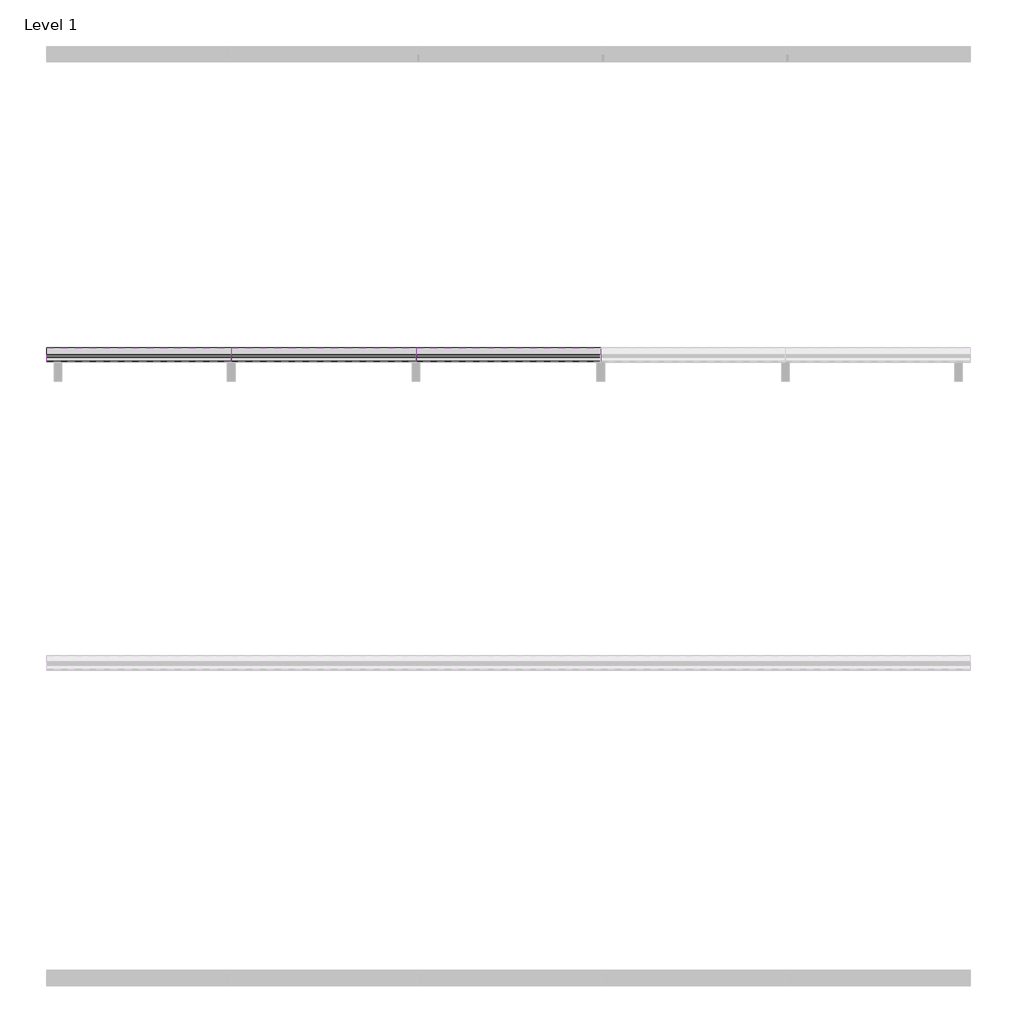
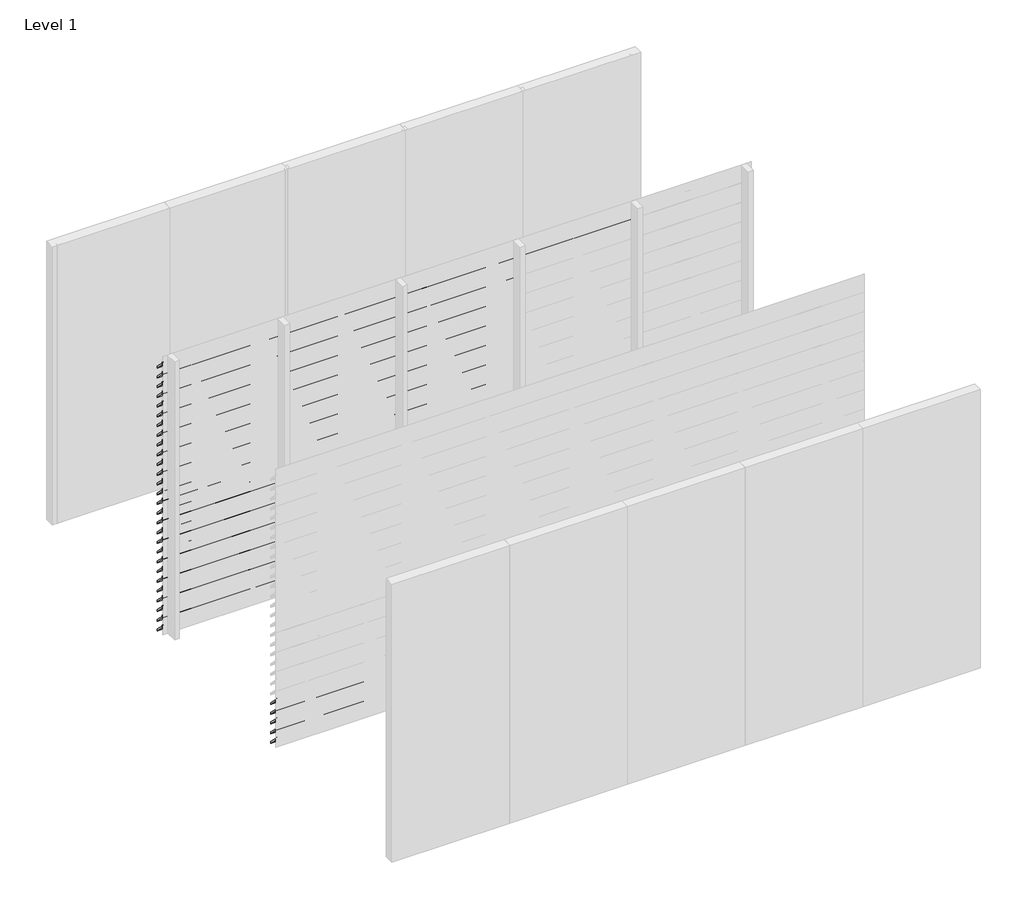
# One storey, part 2 of 8: 91 proxies.
"""IFC4 building model written with IfcOpenShell, lengths in millimetres."""

from ifc_helpers import new_model, si_unit, frame, origin, place, context, project, spatial, polyline, outline, extrude, element, save

model = new_model("IFC4")

# Units and contexts
model_context = context("Model", 3, world=origin())
ifc_project = project(units=[si_unit("LENGTHUNIT", "METRE", prefix="MILLI")], contexts=[model_context])

# Site, building, storey
site = spatial("IfcSite", under=ifc_project)
building = spatial("IfcBuilding", under=site)
storey = spatial("IfcBuildingStorey", under=building, Name="Level 1", Elevation=0.0)

# Proxies
placement = place(None, origin())
element("IfcBuildingElementProxy", 1, Name="Wall Sweeps", at=placement, inside=storey, context=model_context, shape_type="SweptSolid", body=[
    extrude(outline(polyline([(-17995.0, 2940.0), (-17995.0, 2927.0), (-17907.0, 2839.0), (-17907.0, 2818.0), (-17997.0, 2908.0), (-17997.0, 2940.0), (-17995.0, 2940.0)])), frame((3599.9999999, 0.0, 0.0), z_axis=(1.0, 0.0, 0.0), x_axis=(0.0, 1.0, 0.0)), (0.0, 0.0, 1.0), 1199.9999999),
])
element("IfcBuildingElementProxy", 2, Name="Wall Sweeps", at=placement, inside=storey, context=model_context, shape_type="SweptSolid", body=[
    extrude(outline(polyline([(-17995.0, 2835.0), (-17995.0, 2822.0), (-17907.0, 2734.0), (-17907.0, 2713.0), (-17997.0, 2803.0), (-17997.0, 2835.0), (-17995.0, 2835.0)])), frame((3599.9999999, 0.0, 0.0), z_axis=(1.0, 0.0, 0.0), x_axis=(0.0, 1.0, 0.0)), (0.0, 0.0, 1.0), 1199.9999999),
])
element("IfcBuildingElementProxy", 3, Name="Wall Sweeps", at=placement, inside=storey, context=model_context, shape_type="SweptSolid", body=[
    extrude(outline(polyline([(-17995.0, 2940.0), (-17995.0, 2927.0), (-17907.0, 2839.0), (-17907.0, 2818.0), (-17997.0, 2908.0), (-17997.0, 2940.0), (-17995.0, 2940.0)])), frame((2400.0000001, 0.0, 0.0), z_axis=(1.0, 0.0, 0.0), x_axis=(0.0, 1.0, 0.0)), (0.0, 0.0, 1.0), 1199.9999999),
])
element("IfcBuildingElementProxy", 4, Name="Wall Sweeps", at=placement, inside=storey, context=model_context, shape_type="SweptSolid", body=[
    extrude(outline(polyline([(-17995.0, 2835.0), (-17995.0, 2822.0), (-17907.0, 2734.0), (-17907.0, 2713.0), (-17997.0, 2803.0), (-17997.0, 2835.0), (-17995.0, 2835.0)])), frame((2400.0000001, 0.0, 0.0), z_axis=(1.0, 0.0, 0.0), x_axis=(0.0, 1.0, 0.0)), (0.0, 0.0, 1.0), 1199.9999999),
])
element("IfcBuildingElementProxy", 5, Name="Wall Sweeps", at=placement, inside=storey, context=model_context, shape_type="SweptSolid", body=[
    extrude(outline(polyline([(-17995.0, 2730.0), (-17995.0, 2717.0), (-17907.0, 2629.0), (-17907.0, 2608.0), (-17997.0, 2698.0), (-17997.0, 2730.0), (-17995.0, 2730.0)])), frame((2400.0000001, 0.0, 0.0), z_axis=(1.0, 0.0, 0.0), x_axis=(0.0, 1.0, 0.0)), (0.0, 0.0, 1.0), 1199.9999999),
])
element("IfcBuildingElementProxy", 6, Name="Wall Sweeps", at=placement, inside=storey, context=model_context, shape_type="SweptSolid", body=[
    extrude(outline(polyline([(-17995.0, 2625.0), (-17995.0, 2612.0), (-17907.0, 2524.0), (-17907.0, 2503.0), (-17997.0, 2593.0), (-17997.0, 2625.0), (-17995.0, 2625.0)])), frame((2400.0000001, 0.0, 0.0), z_axis=(1.0, 0.0, 0.0), x_axis=(0.0, 1.0, 0.0)), (0.0, 0.0, 1.0), 1199.9999999),
])
element("IfcBuildingElementProxy", 7, Name="Wall Sweeps", at=placement, inside=storey, context=model_context, shape_type="SweptSolid", body=[
    extrude(outline(polyline([(-17995.0, 2520.0), (-17995.0, 2507.0), (-17907.0, 2419.0), (-17907.0, 2398.0), (-17997.0, 2488.0), (-17997.0, 2520.0), (-17995.0, 2520.0)])), frame((2400.0000001, 0.0, 0.0), z_axis=(1.0, 0.0, 0.0), x_axis=(0.0, 1.0, 0.0)), (0.0, 0.0, 1.0), 1199.9999999),
])
element("IfcBuildingElementProxy", 8, Name="Wall Sweeps", at=placement, inside=storey, context=model_context, shape_type="SweptSolid", body=[
    extrude(outline(polyline([(-17995.0, 2415.0), (-17995.0, 2402.0), (-17907.0, 2314.0), (-17907.0, 2293.0), (-17997.0, 2383.0), (-17997.0, 2415.0), (-17995.0, 2415.0)])), frame((2400.0000001, 0.0, 0.0), z_axis=(1.0, 0.0, 0.0), x_axis=(0.0, 1.0, 0.0)), (0.0, 0.0, 1.0), 1199.9999999),
])
element("IfcBuildingElementProxy", 9, Name="Wall Sweeps", at=placement, inside=storey, context=model_context, shape_type="SweptSolid", body=[
    extrude(outline(polyline([(-17995.0, 2310.0), (-17995.0, 2297.0), (-17907.0, 2209.0), (-17907.0, 2188.0), (-17997.0, 2278.0), (-17997.0, 2310.0), (-17995.0, 2310.0)])), frame((2400.0000001, 0.0, 0.0), z_axis=(1.0, 0.0, 0.0), x_axis=(0.0, 1.0, 0.0)), (0.0, 0.0, 1.0), 1199.9999999),
])
element("IfcBuildingElementProxy", 10, Name="Wall Sweeps", at=placement, inside=storey, context=model_context, shape_type="SweptSolid", body=[
    extrude(outline(polyline([(-17995.0, 2205.0), (-17995.0, 2192.0), (-17907.0, 2104.0), (-17907.0, 2083.0), (-17997.0, 2173.0), (-17997.0, 2205.0), (-17995.0, 2205.0)])), frame((2400.0000001, 0.0, 0.0), z_axis=(1.0, 0.0, 0.0), x_axis=(0.0, 1.0, 0.0)), (0.0, 0.0, 1.0), 1199.9999999),
])
element("IfcBuildingElementProxy", 11, Name="Wall Sweeps", at=placement, inside=storey, context=model_context, shape_type="SweptSolid", body=[
    extrude(outline(polyline([(-17995.0, 2100.0), (-17995.0, 2087.0), (-17907.0, 1999.0), (-17907.0, 1978.0), (-17997.0, 2068.0), (-17997.0, 2100.0), (-17995.0, 2100.0)])), frame((2400.0000001, 0.0, 0.0), z_axis=(1.0, 0.0, 0.0), x_axis=(0.0, 1.0, 0.0)), (0.0, 0.0, 1.0), 1199.9999999),
])
element("IfcBuildingElementProxy", 12, Name="Wall Sweeps", at=placement, inside=storey, context=model_context, shape_type="SweptSolid", body=[
    extrude(outline(polyline([(-17995.0, 1995.0), (-17995.0, 1982.0), (-17907.0, 1894.0), (-17907.0, 1873.0), (-17997.0, 1963.0), (-17997.0, 1995.0), (-17995.0, 1995.0)])), frame((2400.0000001, 0.0, 0.0), z_axis=(1.0, 0.0, 0.0), x_axis=(0.0, 1.0, 0.0)), (0.0, 0.0, 1.0), 1199.9999999),
])
element("IfcBuildingElementProxy", 13, Name="Wall Sweeps", at=placement, inside=storey, context=model_context, shape_type="SweptSolid", body=[
    extrude(outline(polyline([(-17995.0, 1890.0), (-17995.0, 1877.0), (-17907.0, 1789.0), (-17907.0, 1768.0), (-17997.0, 1858.0), (-17997.0, 1890.0), (-17995.0, 1890.0)])), frame((2400.0000001, 0.0, 0.0), z_axis=(1.0, 0.0, 0.0), x_axis=(0.0, 1.0, 0.0)), (0.0, 0.0, 1.0), 1199.9999999),
])
element("IfcBuildingElementProxy", 14, Name="Wall Sweeps", at=placement, inside=storey, context=model_context, shape_type="SweptSolid", body=[
    extrude(outline(polyline([(-17995.0, 1785.0), (-17995.0, 1772.0), (-17907.0, 1684.0), (-17907.0, 1663.0), (-17997.0, 1753.0), (-17997.0, 1785.0), (-17995.0, 1785.0)])), frame((2400.0000001, 0.0, 0.0), z_axis=(1.0, 0.0, 0.0), x_axis=(0.0, 1.0, 0.0)), (0.0, 0.0, 1.0), 1199.9999999),
])
element("IfcBuildingElementProxy", 15, Name="Wall Sweeps", at=placement, inside=storey, context=model_context, shape_type="SweptSolid", body=[
    extrude(outline(polyline([(-17995.0, 1680.0), (-17995.0, 1667.0), (-17907.0, 1579.0), (-17907.0, 1558.0), (-17997.0, 1648.0), (-17997.0, 1680.0), (-17995.0, 1680.0)])), frame((2400.0000001, 0.0, 0.0), z_axis=(1.0, 0.0, 0.0), x_axis=(0.0, 1.0, 0.0)), (0.0, 0.0, 1.0), 1199.9999999),
])
element("IfcBuildingElementProxy", 16, Name="Wall Sweeps", at=placement, inside=storey, context=model_context, shape_type="SweptSolid", body=[
    extrude(outline(polyline([(-17995.0, 1575.0), (-17995.0, 1562.0), (-17907.0, 1474.0), (-17907.0, 1453.0), (-17997.0, 1543.0), (-17997.0, 1575.0), (-17995.0, 1575.0)])), frame((2400.0000001, 0.0, 0.0), z_axis=(1.0, 0.0, 0.0), x_axis=(0.0, 1.0, 0.0)), (0.0, 0.0, 1.0), 1199.9999999),
])
element("IfcBuildingElementProxy", 17, Name="Wall Sweeps", at=placement, inside=storey, context=model_context, shape_type="SweptSolid", body=[
    extrude(outline(polyline([(-17995.0, 1470.0), (-17995.0, 1457.0), (-17907.0, 1369.0), (-17907.0, 1348.0), (-17997.0, 1438.0), (-17997.0, 1470.0), (-17995.0, 1470.0)])), frame((2400.0000001, 0.0, 0.0), z_axis=(1.0, 0.0, 0.0), x_axis=(0.0, 1.0, 0.0)), (0.0, 0.0, 1.0), 1199.9999999),
])
element("IfcBuildingElementProxy", 18, Name="Wall Sweeps", at=placement, inside=storey, context=model_context, shape_type="SweptSolid", body=[
    extrude(outline(polyline([(-17995.0, 1365.0), (-17995.0, 1352.0), (-17907.0, 1264.0), (-17907.0, 1243.0), (-17997.0, 1333.0), (-17997.0, 1365.0), (-17995.0, 1365.0)])), frame((2400.0000001, 0.0, 0.0), z_axis=(1.0, 0.0, 0.0), x_axis=(0.0, 1.0, 0.0)), (0.0, 0.0, 1.0), 1199.9999999),
])
element("IfcBuildingElementProxy", 19, Name="Wall Sweeps", at=placement, inside=storey, context=model_context, shape_type="SweptSolid", body=[
    extrude(outline(polyline([(-17995.0, 1260.0), (-17995.0, 1247.0), (-17907.0, 1159.0), (-17907.0, 1138.0), (-17997.0, 1228.0), (-17997.0, 1260.0), (-17995.0, 1260.0)])), frame((2400.0000001, 0.0, 0.0), z_axis=(1.0, 0.0, 0.0), x_axis=(0.0, 1.0, 0.0)), (0.0, 0.0, 1.0), 1199.9999999),
])
element("IfcBuildingElementProxy", 20, Name="Wall Sweeps", at=placement, inside=storey, context=model_context, shape_type="SweptSolid", body=[
    extrude(outline(polyline([(-17995.0, 1155.0), (-17995.0, 1142.0), (-17907.0, 1054.0), (-17907.0, 1033.0), (-17997.0, 1123.0), (-17997.0, 1155.0), (-17995.0, 1155.0)])), frame((2400.0000001, 0.0, 0.0), z_axis=(1.0, 0.0, 0.0), x_axis=(0.0, 1.0, 0.0)), (0.0, 0.0, 1.0), 1199.9999999),
])
element("IfcBuildingElementProxy", 21, Name="Wall Sweeps", at=placement, inside=storey, context=model_context, shape_type="SweptSolid", body=[
    extrude(outline(polyline([(-17995.0, 1050.0), (-17995.0, 1037.0), (-17907.0, 949.0), (-17907.0, 928.0), (-17997.0, 1018.0), (-17997.0, 1050.0), (-17995.0, 1050.0)])), frame((2400.0000001, 0.0, 0.0), z_axis=(1.0, 0.0, 0.0), x_axis=(0.0, 1.0, 0.0)), (0.0, 0.0, 1.0), 1199.9999999),
])
element("IfcBuildingElementProxy", 22, Name="Wall Sweeps", at=placement, inside=storey, context=model_context, shape_type="SweptSolid", body=[
    extrude(outline(polyline([(-17995.0, 945.0), (-17995.0, 932.0), (-17907.0, 844.0), (-17907.0, 823.0), (-17997.0, 913.0), (-17997.0, 945.0), (-17995.0, 945.0)])), frame((2400.0000001, 0.0, 0.0), z_axis=(1.0, 0.0, 0.0), x_axis=(0.0, 1.0, 0.0)), (0.0, 0.0, 1.0), 1199.9999999),
])
element("IfcBuildingElementProxy", 23, Name="Wall Sweeps", at=placement, inside=storey, context=model_context, shape_type="SweptSolid", body=[
    extrude(outline(polyline([(-17995.0, 840.0), (-17995.0, 827.0), (-17907.0, 739.0), (-17907.0, 718.0), (-17997.0, 808.0), (-17997.0, 840.0), (-17995.0, 840.0)])), frame((2400.0000001, 0.0, 0.0), z_axis=(1.0, 0.0, 0.0), x_axis=(0.0, 1.0, 0.0)), (0.0, 0.0, 1.0), 1199.9999999),
])
element("IfcBuildingElementProxy", 24, Name="Wall Sweeps", at=placement, inside=storey, context=model_context, shape_type="SweptSolid", body=[
    extrude(outline(polyline([(-17995.0, 735.0), (-17995.0, 722.0), (-17907.0, 634.0), (-17907.0, 613.0), (-17997.0, 703.0), (-17997.0, 735.0), (-17995.0, 735.0)])), frame((2400.0000001, 0.0, 0.0), z_axis=(1.0, 0.0, 0.0), x_axis=(0.0, 1.0, 0.0)), (0.0, 0.0, 1.0), 1199.9999999),
])
element("IfcBuildingElementProxy", 25, Name="Wall Sweeps", at=placement, inside=storey, context=model_context, shape_type="SweptSolid", body=[
    extrude(outline(polyline([(-17995.0, 630.0), (-17995.0, 617.0), (-17907.0, 529.0), (-17907.0, 508.0), (-17997.0, 598.0), (-17997.0, 630.0), (-17995.0, 630.0)])), frame((2400.0000001, 0.0, 0.0), z_axis=(1.0, 0.0, 0.0), x_axis=(0.0, 1.0, 0.0)), (0.0, 0.0, 1.0), 1199.9999999),
])
element("IfcBuildingElementProxy", 26, Name="Wall Sweeps", at=placement, inside=storey, context=model_context, shape_type="SweptSolid", body=[
    extrude(outline(polyline([(-17995.0, 525.0), (-17995.0, 512.0), (-17907.0, 424.0), (-17907.0, 403.0), (-17997.0, 493.0), (-17997.0, 525.0), (-17995.0, 525.0)])), frame((2400.0000001, 0.0, 0.0), z_axis=(1.0, 0.0, 0.0), x_axis=(0.0, 1.0, 0.0)), (0.0, 0.0, 1.0), 1199.9999999),
])
element("IfcBuildingElementProxy", 27, Name="Wall Sweeps", at=placement, inside=storey, context=model_context, shape_type="SweptSolid", body=[
    extrude(outline(polyline([(-17995.0, 420.0), (-17995.0, 407.0), (-17907.0, 319.0), (-17907.0, 298.0), (-17997.0, 388.0), (-17997.0, 420.0), (-17995.0, 420.0)])), frame((2400.0000001, 0.0, 0.0), z_axis=(1.0, 0.0, 0.0), x_axis=(0.0, 1.0, 0.0)), (0.0, 0.0, 1.0), 1199.9999999),
])
element("IfcBuildingElementProxy", 28, Name="Wall Sweeps", at=placement, inside=storey, context=model_context, shape_type="SweptSolid", body=[
    extrude(outline(polyline([(-17995.0, 315.0), (-17995.0, 302.0), (-17907.0, 214.0), (-17907.0, 193.0), (-17997.0, 283.0), (-17997.0, 315.0), (-17995.0, 315.0)])), frame((2400.0000001, 0.0, 0.0), z_axis=(1.0, 0.0, 0.0), x_axis=(0.0, 1.0, 0.0)), (0.0, 0.0, 1.0), 1199.9999999),
])
element("IfcBuildingElementProxy", 29, Name="Wall Sweeps", at=placement, inside=storey, context=model_context, shape_type="SweptSolid", body=[
    extrude(outline(polyline([(-17995.0, 210.0), (-17995.0, 197.0), (-17907.0, 109.0), (-17907.0, 88.0), (-17997.0, 178.0), (-17997.0, 210.0), (-17995.0, 210.0)])), frame((2400.0000001, 0.0, 0.0), z_axis=(1.0, 0.0, 0.0), x_axis=(0.0, 1.0, 0.0)), (0.0, 0.0, 1.0), 1199.9999999),
])
element("IfcBuildingElementProxy", 30, Name="Wall Sweeps", at=placement, inside=storey, context=model_context, shape_type="SweptSolid", body=[
    extrude(outline(polyline([(-17995.0, 105.0), (-17995.0, 92.0), (-17907.0, 4.0), (-17907.0, -17.0), (-17997.0, 73.0), (-17997.0, 105.0), (-17995.0, 105.0)])), frame((2400.0000001, 0.0, 0.0), z_axis=(1.0, 0.0, 0.0), x_axis=(0.0, 1.0, 0.0)), (0.0, 0.0, 1.0), 1199.9999999),
])
element("IfcBuildingElementProxy", 31, Name="Wall Sweeps", at=placement, inside=storey, context=model_context, shape_type="SweptSolid", body=[
    extrude(outline(polyline([(-17995.0, 2940.0), (-17995.0, 2927.0), (-17907.0, 2839.0), (-17907.0, 2818.0), (-17997.0, 2908.0), (-17997.0, 2940.0), (-17995.0, 2940.0)])), frame((1200.0000002, 0.0, 0.0), z_axis=(1.0, 0.0, 0.0), x_axis=(0.0, 1.0, 0.0)), (0.0, 0.0, 1.0), 1199.9999999),
])
element("IfcBuildingElementProxy", 32, Name="Wall Sweeps", at=placement, inside=storey, context=model_context, shape_type="SweptSolid", body=[
    extrude(outline(polyline([(-17995.0, 2835.0), (-17995.0, 2822.0), (-17907.0, 2734.0), (-17907.0, 2713.0), (-17997.0, 2803.0), (-17997.0, 2835.0), (-17995.0, 2835.0)])), frame((1200.0000002, 0.0, 0.0), z_axis=(1.0, 0.0, 0.0), x_axis=(0.0, 1.0, 0.0)), (0.0, 0.0, 1.0), 1199.9999999),
])
element("IfcBuildingElementProxy", 33, Name="Wall Sweeps", at=placement, inside=storey, context=model_context, shape_type="SweptSolid", body=[
    extrude(outline(polyline([(-17995.0, 2730.0), (-17995.0, 2717.0), (-17907.0, 2629.0), (-17907.0, 2608.0), (-17997.0, 2698.0), (-17997.0, 2730.0), (-17995.0, 2730.0)])), frame((1200.0000002, 0.0, 0.0), z_axis=(1.0, 0.0, 0.0), x_axis=(0.0, 1.0, 0.0)), (0.0, 0.0, 1.0), 1199.9999999),
])
element("IfcBuildingElementProxy", 34, Name="Wall Sweeps", at=placement, inside=storey, context=model_context, shape_type="SweptSolid", body=[
    extrude(outline(polyline([(-17995.0, 2625.0), (-17995.0, 2612.0), (-17907.0, 2524.0), (-17907.0, 2503.0), (-17997.0, 2593.0), (-17997.0, 2625.0), (-17995.0, 2625.0)])), frame((1200.0000002, 0.0, 0.0), z_axis=(1.0, 0.0, 0.0), x_axis=(0.0, 1.0, 0.0)), (0.0, 0.0, 1.0), 1199.9999999),
])
element("IfcBuildingElementProxy", 35, Name="Wall Sweeps", at=placement, inside=storey, context=model_context, shape_type="SweptSolid", body=[
    extrude(outline(polyline([(-17995.0, 2520.0), (-17995.0, 2507.0), (-17907.0, 2419.0), (-17907.0, 2398.0), (-17997.0, 2488.0), (-17997.0, 2520.0), (-17995.0, 2520.0)])), frame((1200.0000002, 0.0, 0.0), z_axis=(1.0, 0.0, 0.0), x_axis=(0.0, 1.0, 0.0)), (0.0, 0.0, 1.0), 1199.9999999),
])
element("IfcBuildingElementProxy", 36, Name="Wall Sweeps", at=placement, inside=storey, context=model_context, shape_type="SweptSolid", body=[
    extrude(outline(polyline([(-17995.0, 2415.0), (-17995.0, 2402.0), (-17907.0, 2314.0), (-17907.0, 2293.0), (-17997.0, 2383.0), (-17997.0, 2415.0), (-17995.0, 2415.0)])), frame((1200.0000002, 0.0, 0.0), z_axis=(1.0, 0.0, 0.0), x_axis=(0.0, 1.0, 0.0)), (0.0, 0.0, 1.0), 1199.9999999),
])
element("IfcBuildingElementProxy", 37, Name="Wall Sweeps", at=placement, inside=storey, context=model_context, shape_type="SweptSolid", body=[
    extrude(outline(polyline([(-17995.0, 2310.0), (-17995.0, 2297.0), (-17907.0, 2209.0), (-17907.0, 2188.0), (-17997.0, 2278.0), (-17997.0, 2310.0), (-17995.0, 2310.0)])), frame((1200.0000002, 0.0, 0.0), z_axis=(1.0, 0.0, 0.0), x_axis=(0.0, 1.0, 0.0)), (0.0, 0.0, 1.0), 1199.9999999),
])
element("IfcBuildingElementProxy", 38, Name="Wall Sweeps", at=placement, inside=storey, context=model_context, shape_type="SweptSolid", body=[
    extrude(outline(polyline([(-17995.0, 2205.0), (-17995.0, 2192.0), (-17907.0, 2104.0), (-17907.0, 2083.0), (-17997.0, 2173.0), (-17997.0, 2205.0), (-17995.0, 2205.0)])), frame((1200.0000002, 0.0, 0.0), z_axis=(1.0, 0.0, 0.0), x_axis=(0.0, 1.0, 0.0)), (0.0, 0.0, 1.0), 1199.9999999),
])
element("IfcBuildingElementProxy", 39, Name="Wall Sweeps", at=placement, inside=storey, context=model_context, shape_type="SweptSolid", body=[
    extrude(outline(polyline([(-17995.0, 2100.0), (-17995.0, 2087.0), (-17907.0, 1999.0), (-17907.0, 1978.0), (-17997.0, 2068.0), (-17997.0, 2100.0), (-17995.0, 2100.0)])), frame((1200.0000002, 0.0, 0.0), z_axis=(1.0, 0.0, 0.0), x_axis=(0.0, 1.0, 0.0)), (0.0, 0.0, 1.0), 1199.9999999),
])
element("IfcBuildingElementProxy", 40, Name="Wall Sweeps", at=placement, inside=storey, context=model_context, shape_type="SweptSolid", body=[
    extrude(outline(polyline([(-17995.0, 1995.0), (-17995.0, 1982.0), (-17907.0, 1894.0), (-17907.0, 1873.0), (-17997.0, 1963.0), (-17997.0, 1995.0), (-17995.0, 1995.0)])), frame((1200.0000002, 0.0, 0.0), z_axis=(1.0, 0.0, 0.0), x_axis=(0.0, 1.0, 0.0)), (0.0, 0.0, 1.0), 1199.9999999),
])
element("IfcBuildingElementProxy", 41, Name="Wall Sweeps", at=placement, inside=storey, context=model_context, shape_type="SweptSolid", body=[
    extrude(outline(polyline([(-17995.0, 1890.0), (-17995.0, 1877.0), (-17907.0, 1789.0), (-17907.0, 1768.0), (-17997.0, 1858.0), (-17997.0, 1890.0), (-17995.0, 1890.0)])), frame((1200.0000002, 0.0, 0.0), z_axis=(1.0, 0.0, 0.0), x_axis=(0.0, 1.0, 0.0)), (0.0, 0.0, 1.0), 1199.9999999),
])
element("IfcBuildingElementProxy", 42, Name="Wall Sweeps", at=placement, inside=storey, context=model_context, shape_type="SweptSolid", body=[
    extrude(outline(polyline([(-17995.0, 1785.0), (-17995.0, 1772.0), (-17907.0, 1684.0), (-17907.0, 1663.0), (-17997.0, 1753.0), (-17997.0, 1785.0), (-17995.0, 1785.0)])), frame((1200.0000002, 0.0, 0.0), z_axis=(1.0, 0.0, 0.0), x_axis=(0.0, 1.0, 0.0)), (0.0, 0.0, 1.0), 1199.9999999),
])
element("IfcBuildingElementProxy", 43, Name="Wall Sweeps", at=placement, inside=storey, context=model_context, shape_type="SweptSolid", body=[
    extrude(outline(polyline([(-17995.0, 1680.0), (-17995.0, 1667.0), (-17907.0, 1579.0), (-17907.0, 1558.0), (-17997.0, 1648.0), (-17997.0, 1680.0), (-17995.0, 1680.0)])), frame((1200.0000002, 0.0, 0.0), z_axis=(1.0, 0.0, 0.0), x_axis=(0.0, 1.0, 0.0)), (0.0, 0.0, 1.0), 1199.9999999),
])
element("IfcBuildingElementProxy", 44, Name="Wall Sweeps", at=placement, inside=storey, context=model_context, shape_type="SweptSolid", body=[
    extrude(outline(polyline([(-17995.0, 1575.0), (-17995.0, 1562.0), (-17907.0, 1474.0), (-17907.0, 1453.0), (-17997.0, 1543.0), (-17997.0, 1575.0), (-17995.0, 1575.0)])), frame((1200.0000002, 0.0, 0.0), z_axis=(1.0, 0.0, 0.0), x_axis=(0.0, 1.0, 0.0)), (0.0, 0.0, 1.0), 1199.9999999),
])
element("IfcBuildingElementProxy", 45, Name="Wall Sweeps", at=placement, inside=storey, context=model_context, shape_type="SweptSolid", body=[
    extrude(outline(polyline([(-17995.0, 1470.0), (-17995.0, 1457.0), (-17907.0, 1369.0), (-17907.0, 1348.0), (-17997.0, 1438.0), (-17997.0, 1470.0), (-17995.0, 1470.0)])), frame((1200.0000002, 0.0, 0.0), z_axis=(1.0, 0.0, 0.0), x_axis=(0.0, 1.0, 0.0)), (0.0, 0.0, 1.0), 1199.9999999),
])
element("IfcBuildingElementProxy", 46, Name="Wall Sweeps", at=placement, inside=storey, context=model_context, shape_type="SweptSolid", body=[
    extrude(outline(polyline([(-17995.0, 1365.0), (-17995.0, 1352.0), (-17907.0, 1264.0), (-17907.0, 1243.0), (-17997.0, 1333.0), (-17997.0, 1365.0), (-17995.0, 1365.0)])), frame((1200.0000002, 0.0, 0.0), z_axis=(1.0, 0.0, 0.0), x_axis=(0.0, 1.0, 0.0)), (0.0, 0.0, 1.0), 1199.9999999),
])
element("IfcBuildingElementProxy", 47, Name="Wall Sweeps", at=placement, inside=storey, context=model_context, shape_type="SweptSolid", body=[
    extrude(outline(polyline([(-17995.0, 1260.0), (-17995.0, 1247.0), (-17907.0, 1159.0), (-17907.0, 1138.0), (-17997.0, 1228.0), (-17997.0, 1260.0), (-17995.0, 1260.0)])), frame((1200.0000002, 0.0, 0.0), z_axis=(1.0, 0.0, 0.0), x_axis=(0.0, 1.0, 0.0)), (0.0, 0.0, 1.0), 1199.9999999),
])
element("IfcBuildingElementProxy", 48, Name="Wall Sweeps", at=placement, inside=storey, context=model_context, shape_type="SweptSolid", body=[
    extrude(outline(polyline([(-17995.0, 1155.0), (-17995.0, 1142.0), (-17907.0, 1054.0), (-17907.0, 1033.0), (-17997.0, 1123.0), (-17997.0, 1155.0), (-17995.0, 1155.0)])), frame((1200.0000002, 0.0, 0.0), z_axis=(1.0, 0.0, 0.0), x_axis=(0.0, 1.0, 0.0)), (0.0, 0.0, 1.0), 1199.9999999),
])
element("IfcBuildingElementProxy", 49, Name="Wall Sweeps", at=placement, inside=storey, context=model_context, shape_type="SweptSolid", body=[
    extrude(outline(polyline([(-17995.0, 1050.0), (-17995.0, 1037.0), (-17907.0, 949.0), (-17907.0, 928.0), (-17997.0, 1018.0), (-17997.0, 1050.0), (-17995.0, 1050.0)])), frame((1200.0000002, 0.0, 0.0), z_axis=(1.0, 0.0, 0.0), x_axis=(0.0, 1.0, 0.0)), (0.0, 0.0, 1.0), 1199.9999999),
])
element("IfcBuildingElementProxy", 50, Name="Wall Sweeps", at=placement, inside=storey, context=model_context, shape_type="SweptSolid", body=[
    extrude(outline(polyline([(-17995.0, 945.0), (-17995.0, 932.0), (-17907.0, 844.0), (-17907.0, 823.0), (-17997.0, 913.0), (-17997.0, 945.0), (-17995.0, 945.0)])), frame((1200.0000002, 0.0, 0.0), z_axis=(1.0, 0.0, 0.0), x_axis=(0.0, 1.0, 0.0)), (0.0, 0.0, 1.0), 1199.9999999),
])
element("IfcBuildingElementProxy", 51, Name="Wall Sweeps", at=placement, inside=storey, context=model_context, shape_type="SweptSolid", body=[
    extrude(outline(polyline([(-17995.0, 840.0), (-17995.0, 827.0), (-17907.0, 739.0), (-17907.0, 718.0), (-17997.0, 808.0), (-17997.0, 840.0), (-17995.0, 840.0)])), frame((1200.0000002, 0.0, 0.0), z_axis=(1.0, 0.0, 0.0), x_axis=(0.0, 1.0, 0.0)), (0.0, 0.0, 1.0), 1199.9999999),
])
element("IfcBuildingElementProxy", 52, Name="Wall Sweeps", at=placement, inside=storey, context=model_context, shape_type="SweptSolid", body=[
    extrude(outline(polyline([(-17995.0, 735.0), (-17995.0, 722.0), (-17907.0, 634.0), (-17907.0, 613.0), (-17997.0, 703.0), (-17997.0, 735.0), (-17995.0, 735.0)])), frame((1200.0000002, 0.0, 0.0), z_axis=(1.0, 0.0, 0.0), x_axis=(0.0, 1.0, 0.0)), (0.0, 0.0, 1.0), 1199.9999999),
])
element("IfcBuildingElementProxy", 53, Name="Wall Sweeps", at=placement, inside=storey, context=model_context, shape_type="SweptSolid", body=[
    extrude(outline(polyline([(-17995.0, 630.0), (-17995.0, 617.0), (-17907.0, 529.0), (-17907.0, 508.0), (-17997.0, 598.0), (-17997.0, 630.0), (-17995.0, 630.0)])), frame((1200.0000002, 0.0, 0.0), z_axis=(1.0, 0.0, 0.0), x_axis=(0.0, 1.0, 0.0)), (0.0, 0.0, 1.0), 1199.9999999),
])
element("IfcBuildingElementProxy", 54, Name="Wall Sweeps", at=placement, inside=storey, context=model_context, shape_type="SweptSolid", body=[
    extrude(outline(polyline([(-17995.0, 525.0), (-17995.0, 512.0), (-17907.0, 424.0), (-17907.0, 403.0), (-17997.0, 493.0), (-17997.0, 525.0), (-17995.0, 525.0)])), frame((1200.0000002, 0.0, 0.0), z_axis=(1.0, 0.0, 0.0), x_axis=(0.0, 1.0, 0.0)), (0.0, 0.0, 1.0), 1199.9999999),
])
element("IfcBuildingElementProxy", 55, Name="Wall Sweeps", at=placement, inside=storey, context=model_context, shape_type="SweptSolid", body=[
    extrude(outline(polyline([(-17995.0, 420.0), (-17995.0, 407.0), (-17907.0, 319.0), (-17907.0, 298.0), (-17997.0, 388.0), (-17997.0, 420.0), (-17995.0, 420.0)])), frame((1200.0000002, 0.0, 0.0), z_axis=(1.0, 0.0, 0.0), x_axis=(0.0, 1.0, 0.0)), (0.0, 0.0, 1.0), 1199.9999999),
])
element("IfcBuildingElementProxy", 56, Name="Wall Sweeps", at=placement, inside=storey, context=model_context, shape_type="SweptSolid", body=[
    extrude(outline(polyline([(-17995.0, 315.0), (-17995.0, 302.0), (-17907.0, 214.0), (-17907.0, 193.0), (-17997.0, 283.0), (-17997.0, 315.0), (-17995.0, 315.0)])), frame((1200.0000002, 0.0, 0.0), z_axis=(1.0, 0.0, 0.0), x_axis=(0.0, 1.0, 0.0)), (0.0, 0.0, 1.0), 1199.9999999),
])
element("IfcBuildingElementProxy", 57, Name="Wall Sweeps", at=placement, inside=storey, context=model_context, shape_type="SweptSolid", body=[
    extrude(outline(polyline([(-17995.0, 210.0), (-17995.0, 197.0), (-17907.0, 109.0), (-17907.0, 88.0), (-17997.0, 178.0), (-17997.0, 210.0), (-17995.0, 210.0)])), frame((1200.0000002, 0.0, 0.0), z_axis=(1.0, 0.0, 0.0), x_axis=(0.0, 1.0, 0.0)), (0.0, 0.0, 1.0), 1199.9999999),
])
element("IfcBuildingElementProxy", 58, Name="Wall Sweeps", at=placement, inside=storey, context=model_context, shape_type="SweptSolid", body=[
    extrude(outline(polyline([(-17995.0, 105.0), (-17995.0, 92.0), (-17907.0, 4.0), (-17907.0, -17.0), (-17997.0, 73.0), (-17997.0, 105.0), (-17995.0, 105.0)])), frame((1200.0000002, 0.0, 0.0), z_axis=(1.0, 0.0, 0.0), x_axis=(0.0, 1.0, 0.0)), (0.0, 0.0, 1.0), 1199.9999999),
])
element("IfcBuildingElementProxy", 59, Name="Wall Sweeps", at=placement, inside=storey, context=model_context, shape_type="SweptSolid", body=[
    extrude(outline(polyline([(-17995.0, 2940.0), (-17995.0, 2927.0), (-17907.0, 2839.0), (-17907.0, 2818.0), (-17997.0, 2908.0), (-17997.0, 2940.0), (-17995.0, 2940.0)])), frame((0.0, 0.0, 0.0), z_axis=(1.0, 0.0, 0.0), x_axis=(0.0, 1.0, 0.0)), (0.0, 0.0, 1.0), 1200.0000002),
])
element("IfcBuildingElementProxy", 60, Name="Wall Sweeps", at=placement, inside=storey, context=model_context, shape_type="SweptSolid", body=[
    extrude(outline(polyline([(-17995.0, 2835.0), (-17995.0, 2822.0), (-17907.0, 2734.0), (-17907.0, 2713.0), (-17997.0, 2803.0), (-17997.0, 2835.0), (-17995.0, 2835.0)])), frame((0.0, 0.0, 0.0), z_axis=(1.0, 0.0, 0.0), x_axis=(0.0, 1.0, 0.0)), (0.0, 0.0, 1.0), 1200.0000002),
])
element("IfcBuildingElementProxy", 61, Name="Wall Sweeps", at=placement, inside=storey, context=model_context, shape_type="SweptSolid", body=[
    extrude(outline(polyline([(-17995.0, 2730.0), (-17995.0, 2717.0), (-17907.0, 2629.0), (-17907.0, 2608.0), (-17997.0, 2698.0), (-17997.0, 2730.0), (-17995.0, 2730.0)])), frame((0.0, 0.0, 0.0), z_axis=(1.0, 0.0, 0.0), x_axis=(0.0, 1.0, 0.0)), (0.0, 0.0, 1.0), 1200.0000002),
])
element("IfcBuildingElementProxy", 62, Name="Wall Sweeps", at=placement, inside=storey, context=model_context, shape_type="SweptSolid", body=[
    extrude(outline(polyline([(-17995.0, 2625.0), (-17995.0, 2612.0), (-17907.0, 2524.0), (-17907.0, 2503.0), (-17997.0, 2593.0), (-17997.0, 2625.0), (-17995.0, 2625.0)])), frame((0.0, 0.0, 0.0), z_axis=(1.0, 0.0, 0.0), x_axis=(0.0, 1.0, 0.0)), (0.0, 0.0, 1.0), 1200.0000002),
])
element("IfcBuildingElementProxy", 63, Name="Wall Sweeps", at=placement, inside=storey, context=model_context, shape_type="SweptSolid", body=[
    extrude(outline(polyline([(-17995.0, 2520.0), (-17995.0, 2507.0), (-17907.0, 2419.0), (-17907.0, 2398.0), (-17997.0, 2488.0), (-17997.0, 2520.0), (-17995.0, 2520.0)])), frame((0.0, 0.0, 0.0), z_axis=(1.0, 0.0, 0.0), x_axis=(0.0, 1.0, 0.0)), (0.0, 0.0, 1.0), 1200.0000002),
])
element("IfcBuildingElementProxy", 64, Name="Wall Sweeps", at=placement, inside=storey, context=model_context, shape_type="SweptSolid", body=[
    extrude(outline(polyline([(-17995.0, 2415.0), (-17995.0, 2402.0), (-17907.0, 2314.0), (-17907.0, 2293.0), (-17997.0, 2383.0), (-17997.0, 2415.0), (-17995.0, 2415.0)])), frame((0.0, 0.0, 0.0), z_axis=(1.0, 0.0, 0.0), x_axis=(0.0, 1.0, 0.0)), (0.0, 0.0, 1.0), 1200.0000002),
])
element("IfcBuildingElementProxy", 65, Name="Wall Sweeps", at=placement, inside=storey, context=model_context, shape_type="SweptSolid", body=[
    extrude(outline(polyline([(-17995.0, 2310.0), (-17995.0, 2297.0), (-17907.0, 2209.0), (-17907.0, 2188.0), (-17997.0, 2278.0), (-17997.0, 2310.0), (-17995.0, 2310.0)])), frame((0.0, 0.0, 0.0), z_axis=(1.0, 0.0, 0.0), x_axis=(0.0, 1.0, 0.0)), (0.0, 0.0, 1.0), 1200.0000002),
])
element("IfcBuildingElementProxy", 66, Name="Wall Sweeps", at=placement, inside=storey, context=model_context, shape_type="SweptSolid", body=[
    extrude(outline(polyline([(-17995.0, 2205.0), (-17995.0, 2192.0), (-17907.0, 2104.0), (-17907.0, 2083.0), (-17997.0, 2173.0), (-17997.0, 2205.0), (-17995.0, 2205.0)])), frame((0.0, 0.0, 0.0), z_axis=(1.0, 0.0, 0.0), x_axis=(0.0, 1.0, 0.0)), (0.0, 0.0, 1.0), 1200.0000002),
])
element("IfcBuildingElementProxy", 67, Name="Wall Sweeps", at=placement, inside=storey, context=model_context, shape_type="SweptSolid", body=[
    extrude(outline(polyline([(-17995.0, 2100.0), (-17995.0, 2087.0), (-17907.0, 1999.0), (-17907.0, 1978.0), (-17997.0, 2068.0), (-17997.0, 2100.0), (-17995.0, 2100.0)])), frame((0.0, 0.0, 0.0), z_axis=(1.0, 0.0, 0.0), x_axis=(0.0, 1.0, 0.0)), (0.0, 0.0, 1.0), 1200.0000002),
])
element("IfcBuildingElementProxy", 68, Name="Wall Sweeps", at=placement, inside=storey, context=model_context, shape_type="SweptSolid", body=[
    extrude(outline(polyline([(-17995.0, 1995.0), (-17995.0, 1982.0), (-17907.0, 1894.0), (-17907.0, 1873.0), (-17997.0, 1963.0), (-17997.0, 1995.0), (-17995.0, 1995.0)])), frame((0.0, 0.0, 0.0), z_axis=(1.0, 0.0, 0.0), x_axis=(0.0, 1.0, 0.0)), (0.0, 0.0, 1.0), 1200.0000002),
])
element("IfcBuildingElementProxy", 69, Name="Wall Sweeps", at=placement, inside=storey, context=model_context, shape_type="SweptSolid", body=[
    extrude(outline(polyline([(-17995.0, 1890.0), (-17995.0, 1877.0), (-17907.0, 1789.0), (-17907.0, 1768.0), (-17997.0, 1858.0), (-17997.0, 1890.0), (-17995.0, 1890.0)])), frame((0.0, 0.0, 0.0), z_axis=(1.0, 0.0, 0.0), x_axis=(0.0, 1.0, 0.0)), (0.0, 0.0, 1.0), 1200.0000002),
])
element("IfcBuildingElementProxy", 70, Name="Wall Sweeps", at=placement, inside=storey, context=model_context, shape_type="SweptSolid", body=[
    extrude(outline(polyline([(-17995.0, 1785.0), (-17995.0, 1772.0), (-17907.0, 1684.0), (-17907.0, 1663.0), (-17997.0, 1753.0), (-17997.0, 1785.0), (-17995.0, 1785.0)])), frame((0.0, 0.0, 0.0), z_axis=(1.0, 0.0, 0.0), x_axis=(0.0, 1.0, 0.0)), (0.0, 0.0, 1.0), 1200.0000002),
])
element("IfcBuildingElementProxy", 71, Name="Wall Sweeps", at=placement, inside=storey, context=model_context, shape_type="SweptSolid", body=[
    extrude(outline(polyline([(-17995.0, 1680.0), (-17995.0, 1667.0), (-17907.0, 1579.0), (-17907.0, 1558.0), (-17997.0, 1648.0), (-17997.0, 1680.0), (-17995.0, 1680.0)])), frame((0.0, 0.0, 0.0), z_axis=(1.0, 0.0, 0.0), x_axis=(0.0, 1.0, 0.0)), (0.0, 0.0, 1.0), 1200.0000002),
])
element("IfcBuildingElementProxy", 72, Name="Wall Sweeps", at=placement, inside=storey, context=model_context, shape_type="SweptSolid", body=[
    extrude(outline(polyline([(-17995.0, 1575.0), (-17995.0, 1562.0), (-17907.0, 1474.0), (-17907.0, 1453.0), (-17997.0, 1543.0), (-17997.0, 1575.0), (-17995.0, 1575.0)])), frame((0.0, 0.0, 0.0), z_axis=(1.0, 0.0, 0.0), x_axis=(0.0, 1.0, 0.0)), (0.0, 0.0, 1.0), 1200.0000002),
])
element("IfcBuildingElementProxy", 73, Name="Wall Sweeps", at=placement, inside=storey, context=model_context, shape_type="SweptSolid", body=[
    extrude(outline(polyline([(-17995.0, 1470.0), (-17995.0, 1457.0), (-17907.0, 1369.0), (-17907.0, 1348.0), (-17997.0, 1438.0), (-17997.0, 1470.0), (-17995.0, 1470.0)])), frame((0.0, 0.0, 0.0), z_axis=(1.0, 0.0, 0.0), x_axis=(0.0, 1.0, 0.0)), (0.0, 0.0, 1.0), 1200.0000002),
])
element("IfcBuildingElementProxy", 74, Name="Wall Sweeps", at=placement, inside=storey, context=model_context, shape_type="SweptSolid", body=[
    extrude(outline(polyline([(-17995.0, 1365.0), (-17995.0, 1352.0), (-17907.0, 1264.0), (-17907.0, 1243.0), (-17997.0, 1333.0), (-17997.0, 1365.0), (-17995.0, 1365.0)])), frame((0.0, 0.0, 0.0), z_axis=(1.0, 0.0, 0.0), x_axis=(0.0, 1.0, 0.0)), (0.0, 0.0, 1.0), 1200.0000002),
])
element("IfcBuildingElementProxy", 75, Name="Wall Sweeps", at=placement, inside=storey, context=model_context, shape_type="SweptSolid", body=[
    extrude(outline(polyline([(-17995.0, 1260.0), (-17995.0, 1247.0), (-17907.0, 1159.0), (-17907.0, 1138.0), (-17997.0, 1228.0), (-17997.0, 1260.0), (-17995.0, 1260.0)])), frame((0.0, 0.0, 0.0), z_axis=(1.0, 0.0, 0.0), x_axis=(0.0, 1.0, 0.0)), (0.0, 0.0, 1.0), 1200.0000002),
])
element("IfcBuildingElementProxy", 76, Name="Wall Sweeps", at=placement, inside=storey, context=model_context, shape_type="SweptSolid", body=[
    extrude(outline(polyline([(-17995.0, 1155.0), (-17995.0, 1142.0), (-17907.0, 1054.0), (-17907.0, 1033.0), (-17997.0, 1123.0), (-17997.0, 1155.0), (-17995.0, 1155.0)])), frame((0.0, 0.0, 0.0), z_axis=(1.0, 0.0, 0.0), x_axis=(0.0, 1.0, 0.0)), (0.0, 0.0, 1.0), 1200.0000002),
])
element("IfcBuildingElementProxy", 77, Name="Wall Sweeps", at=placement, inside=storey, context=model_context, shape_type="SweptSolid", body=[
    extrude(outline(polyline([(-17995.0, 1050.0), (-17995.0, 1037.0), (-17907.0, 949.0), (-17907.0, 928.0), (-17997.0, 1018.0), (-17997.0, 1050.0), (-17995.0, 1050.0)])), frame((0.0, 0.0, 0.0), z_axis=(1.0, 0.0, 0.0), x_axis=(0.0, 1.0, 0.0)), (0.0, 0.0, 1.0), 1200.0000002),
])
element("IfcBuildingElementProxy", 78, Name="Wall Sweeps", at=placement, inside=storey, context=model_context, shape_type="SweptSolid", body=[
    extrude(outline(polyline([(-17995.0, 945.0), (-17995.0, 932.0), (-17907.0, 844.0), (-17907.0, 823.0), (-17997.0, 913.0), (-17997.0, 945.0), (-17995.0, 945.0)])), frame((0.0, 0.0, 0.0), z_axis=(1.0, 0.0, 0.0), x_axis=(0.0, 1.0, 0.0)), (0.0, 0.0, 1.0), 1200.0000002),
])
element("IfcBuildingElementProxy", 79, Name="Wall Sweeps", at=placement, inside=storey, context=model_context, shape_type="SweptSolid", body=[
    extrude(outline(polyline([(-17995.0, 840.0), (-17995.0, 827.0), (-17907.0, 739.0), (-17907.0, 718.0), (-17997.0, 808.0), (-17997.0, 840.0), (-17995.0, 840.0)])), frame((0.0, 0.0, 0.0), z_axis=(1.0, 0.0, 0.0), x_axis=(0.0, 1.0, 0.0)), (0.0, 0.0, 1.0), 1200.0000002),
])
element("IfcBuildingElementProxy", 80, Name="Wall Sweeps", at=placement, inside=storey, context=model_context, shape_type="SweptSolid", body=[
    extrude(outline(polyline([(-17995.0, 735.0), (-17995.0, 722.0), (-17907.0, 634.0), (-17907.0, 613.0), (-17997.0, 703.0), (-17997.0, 735.0), (-17995.0, 735.0)])), frame((0.0, 0.0, 0.0), z_axis=(1.0, 0.0, 0.0), x_axis=(0.0, 1.0, 0.0)), (0.0, 0.0, 1.0), 1200.0000002),
])
element("IfcBuildingElementProxy", 81, Name="Wall Sweeps", at=placement, inside=storey, context=model_context, shape_type="SweptSolid", body=[
    extrude(outline(polyline([(-17995.0, 630.0), (-17995.0, 617.0), (-17907.0, 529.0), (-17907.0, 508.0), (-17997.0, 598.0), (-17997.0, 630.0), (-17995.0, 630.0)])), frame((0.0, 0.0, 0.0), z_axis=(1.0, 0.0, 0.0), x_axis=(0.0, 1.0, 0.0)), (0.0, 0.0, 1.0), 1200.0000002),
])
element("IfcBuildingElementProxy", 82, Name="Wall Sweeps", at=placement, inside=storey, context=model_context, shape_type="SweptSolid", body=[
    extrude(outline(polyline([(-17995.0, 525.0), (-17995.0, 512.0), (-17907.0, 424.0), (-17907.0, 403.0), (-17997.0, 493.0), (-17997.0, 525.0), (-17995.0, 525.0)])), frame((0.0, 0.0, 0.0), z_axis=(1.0, 0.0, 0.0), x_axis=(0.0, 1.0, 0.0)), (0.0, 0.0, 1.0), 1200.0000002),
])
element("IfcBuildingElementProxy", 83, Name="Wall Sweeps", at=placement, inside=storey, context=model_context, shape_type="SweptSolid", body=[
    extrude(outline(polyline([(-17995.0, 420.0), (-17995.0, 407.0), (-17907.0, 319.0), (-17907.0, 298.0), (-17997.0, 388.0), (-17997.0, 420.0), (-17995.0, 420.0)])), frame((0.0, 0.0, 0.0), z_axis=(1.0, 0.0, 0.0), x_axis=(0.0, 1.0, 0.0)), (0.0, 0.0, 1.0), 1200.0000002),
])
element("IfcBuildingElementProxy", 84, Name="Wall Sweeps", at=placement, inside=storey, context=model_context, shape_type="SweptSolid", body=[
    extrude(outline(polyline([(-17995.0, 315.0), (-17995.0, 302.0), (-17907.0, 214.0), (-17907.0, 193.0), (-17997.0, 283.0), (-17997.0, 315.0), (-17995.0, 315.0)])), frame((0.0, 0.0, 0.0), z_axis=(1.0, 0.0, 0.0), x_axis=(0.0, 1.0, 0.0)), (0.0, 0.0, 1.0), 1200.0000002),
])
element("IfcBuildingElementProxy", 85, Name="Wall Sweeps", at=placement, inside=storey, context=model_context, shape_type="SweptSolid", body=[
    extrude(outline(polyline([(-17995.0, 210.0), (-17995.0, 197.0), (-17907.0, 109.0), (-17907.0, 88.0), (-17997.0, 178.0), (-17997.0, 210.0), (-17995.0, 210.0)])), frame((0.0, 0.0, 0.0), z_axis=(1.0, 0.0, 0.0), x_axis=(0.0, 1.0, 0.0)), (0.0, 0.0, 1.0), 1200.0000002),
])
element("IfcBuildingElementProxy", 86, Name="Wall Sweeps", at=placement, inside=storey, context=model_context, shape_type="SweptSolid", body=[
    extrude(outline(polyline([(-17995.0, 105.0), (-17995.0, 92.0), (-17907.0, 4.0), (-17907.0, -17.0), (-17997.0, 73.0), (-17997.0, 105.0), (-17995.0, 105.0)])), frame((0.0, 0.0, 0.0), z_axis=(1.0, 0.0, 0.0), x_axis=(0.0, 1.0, 0.0)), (0.0, 0.0, 1.0), 1200.0000002),
])
element("IfcBuildingElementProxy", 87, Name="Wall Sweeps", at=placement, inside=storey, context=model_context, shape_type="SweptSolid", body=[
    extrude(outline(polyline([(-19995.0, 525.0), (-19995.0, 512.0), (-19907.0, 424.0), (-19907.0, 403.0), (-19997.0, 493.0), (-19997.0, 525.0), (-19995.0, 525.0)])), frame((0.0, 0.0, 0.0), z_axis=(1.0, 0.0, 0.0), x_axis=(0.0, 1.0, 0.0)), (0.0, 0.0, 1.0), 6000.0),
])
element("IfcBuildingElementProxy", 88, Name="Wall Sweeps", at=placement, inside=storey, context=model_context, shape_type="SweptSolid", body=[
    extrude(outline(polyline([(-19995.0, 420.0), (-19995.0, 407.0), (-19907.0, 319.0), (-19907.0, 298.0), (-19997.0, 388.0), (-19997.0, 420.0), (-19995.0, 420.0)])), frame((0.0, 0.0, 0.0), z_axis=(1.0, 0.0, 0.0), x_axis=(0.0, 1.0, 0.0)), (0.0, 0.0, 1.0), 6000.0),
])
element("IfcBuildingElementProxy", 89, Name="Wall Sweeps", at=placement, inside=storey, context=model_context, shape_type="SweptSolid", body=[
    extrude(outline(polyline([(-19995.0, 315.0), (-19995.0, 302.0), (-19907.0, 214.0), (-19907.0, 193.0), (-19997.0, 283.0), (-19997.0, 315.0), (-19995.0, 315.0)])), frame((0.0, 0.0, 0.0), z_axis=(1.0, 0.0, 0.0), x_axis=(0.0, 1.0, 0.0)), (0.0, 0.0, 1.0), 6000.0),
])
element("IfcBuildingElementProxy", 90, Name="Wall Sweeps", at=placement, inside=storey, context=model_context, shape_type="SweptSolid", body=[
    extrude(outline(polyline([(-19995.0, 210.0), (-19995.0, 197.0), (-19907.0, 109.0), (-19907.0, 88.0), (-19997.0, 178.0), (-19997.0, 210.0), (-19995.0, 210.0)])), frame((0.0, 0.0, 0.0), z_axis=(1.0, 0.0, 0.0), x_axis=(0.0, 1.0, 0.0)), (0.0, 0.0, 1.0), 6000.0),
])
element("IfcBuildingElementProxy", 91, Name="Wall Sweeps", at=placement, inside=storey, context=model_context, shape_type="SweptSolid", body=[
    extrude(outline(polyline([(-19995.0, 105.0), (-19995.0, 92.0), (-19907.0, 4.0), (-19907.0, -17.0), (-19997.0, 73.0), (-19997.0, 105.0), (-19995.0, 105.0)])), frame((0.0, 0.0, 0.0), z_axis=(1.0, 0.0, 0.0), x_axis=(0.0, 1.0, 0.0)), (0.0, 0.0, 1.0), 6000.0),
])

save(model, "model.ifc")
